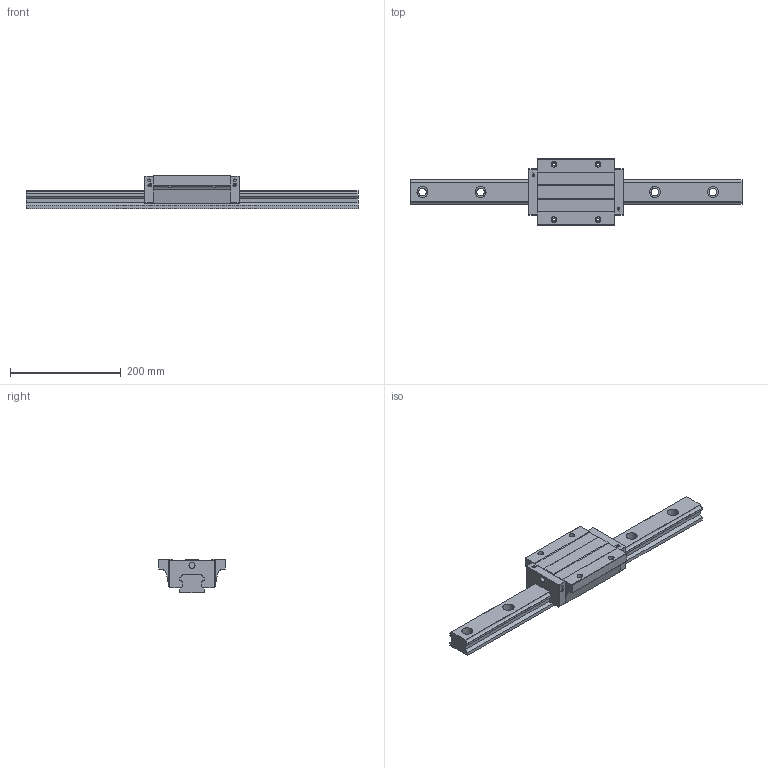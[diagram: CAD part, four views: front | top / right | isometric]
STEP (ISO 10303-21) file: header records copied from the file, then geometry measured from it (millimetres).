
FILE_DESCRIPTION (( 'STEP AP203' ), '1' );
FILE_NAME ('TRH45FE-XNC.STEP', '2026-02-12T07:29:05', ( '' ), ( '' ), 'SwSTEP 2.0', 'SolidWorks 2022', '' );
FILE_SCHEMA (( 'CONFIG_CONTROL_DESIGN' ));
Length unit declared in the file: millimetre
Products named in the file (1): TRH45FE-XNC
Bounding box: 600 x 120 x 60 mm (x, y, z)
Volume: 1365046 mm3; surface area: 177097.1 mm2
Topology: 1 solids, 1 shells, 379 faces, 1020 edges, 670 vertices
Faces by surface type: plane 227, cylinder 100, bspline 48, sphere 4
Entity records: 15027 total; most frequent: CARTESIAN_POINT 5592, ORIENTED_EDGE 2032, DIRECTION 1762, EDGE_CURVE 1016, VECTOR 718, LINE 718, VERTEX_POINT 670, AXIS2_PLACEMENT_3D 522
